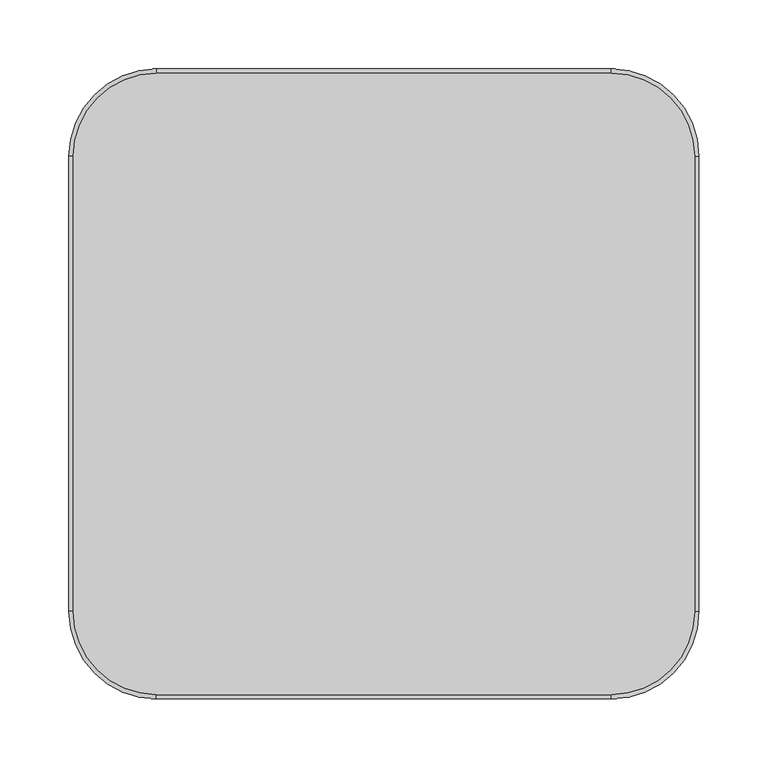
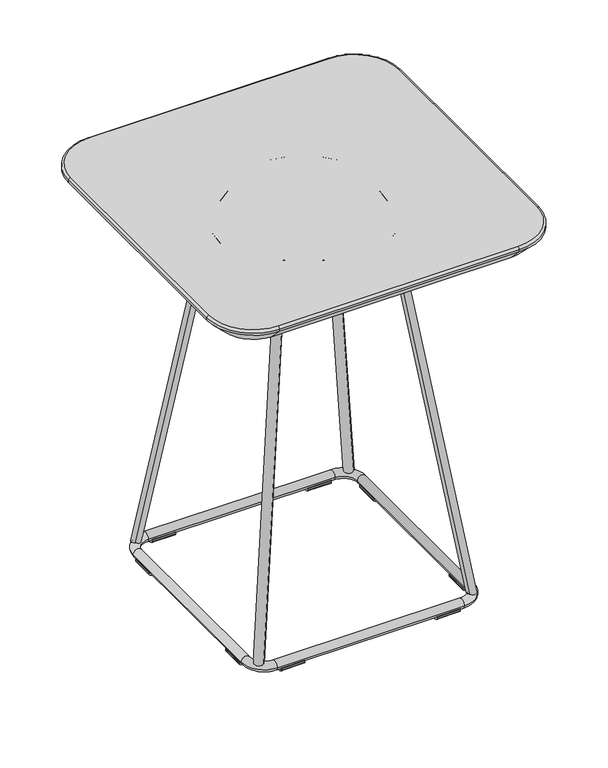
"""IFC4 building model written with IfcOpenShell, lengths in millimetres: furniture geometry, Stance_HC-Tully-Square_Table : TUTF181822-T."""

from ifc_helpers import new_model, si_unit, point, frame, frame_2d, origin, place, context, project, spatial, polyline, circle_curve, ellipse_curve, trimmed, segment, composite_curve, outline, extrude, source, transform, mapped, element, save
from ifc_brep_helpers import plane_surface, cylinder_surface, revolved_surface, extruded_surface, advanced_brep


def furniture_1bf04262(model_context):
    return source(origin(), model_context, "Body", "SolidModel", [
        advanced_brep(
        [(165.1, 225.425, 558.8), (-165.1, 225.425, 558.8), (-225.425, 165.1, 558.8), (-225.425, -165.1, 558.8), (-165.1, -225.425, 558.8), (165.1, -225.425, 558.8), (225.425, -165.1, 558.8), (225.425, 165.1, 558.8), (165.1, 209.55, 533.4), (209.55, 165.1, 533.4), (209.55, -165.1, 533.4), (165.1, -209.55, 533.4), (-165.1, -209.55, 533.4), (-209.55, -165.1, 533.4), (-209.55, 165.1, 533.4), (-165.1, 209.55, 533.4), (228.6, 165.1, 552.45), (165.1, 228.6, 552.45), (165.1, 228.6, 555.625), (228.6, 165.1, 555.625), (228.6, -165.1, 555.625), (228.6, -165.1, 552.45), (165.1, -228.6, 555.625), (165.1, -228.6, 552.45), (-165.1, -228.6, 555.625), (-165.1, -228.6, 552.45), (-228.6, -165.1, 555.625), (-228.6, -165.1, 552.45), (-228.6, 165.1, 555.625), (-228.6, 165.1, 552.45), (-165.1, 228.6, 555.625), (-165.1, 228.6, 552.45)],
        [
            (0, 1),
            (1, 2, circle_curve(frame((-165.1, 165.1, 558.8), z_axis=(0.0, 0.0, 1.0), x_axis=(-1.0, 0.0, 0.0)), 60.325)),
            (2, 3),
            (3, 4, circle_curve(frame((-165.1, -165.1, 558.8), z_axis=(0.0, 0.0, 1.0), x_axis=(0.0, -1.0, 0.0)), 60.325)),
            (4, 5),
            (5, 6, circle_curve(frame((165.1, -165.1, 558.8), z_axis=(0.0, 0.0, 1.0), x_axis=(1.0, 0.0, 0.0)), 60.325)),
            (6, 7),
            (7, 0, circle_curve(frame((165.1, 165.1, 558.8), z_axis=(0.0, 0.0, 1.0), x_axis=(0.0, 1.0, 0.0)), 60.325)),
            (8, 9, circle_curve(frame((165.1, 165.1, 533.4), z_axis=(0.0, 0.0, -1.0), x_axis=(0.0, 1.0, 0.0)), 44.45)),
            (9, 10),
            (10, 11, circle_curve(frame((165.1, -165.1, 533.4), z_axis=(0.0, 0.0, -1.0), x_axis=(1.0, 0.0, 0.0)), 44.45)),
            (11, 12),
            (12, 13, circle_curve(frame((-165.1, -165.1, 533.4), z_axis=(0.0, 0.0, -1.0), x_axis=(0.0, -1.0, 0.0)), 44.45)),
            (13, 14),
            (14, 15, circle_curve(frame((-165.1, 165.1, 533.4), z_axis=(0.0, 0.0, -1.0), x_axis=(-1.0, 0.0, 0.0)), 44.45)),
            (15, 8),
            (16, 17, circle_curve(frame((165.1, 165.1, 552.45), z_axis=(0.0, 0.0, 1.0), x_axis=(0.0, 1.0, 0.0)), 63.5)),
            (17, 18),
            (18, 19, circle_curve(frame((165.1, 165.1, 555.625), z_axis=(0.0, 0.0, -1.0), x_axis=(0.0, 1.0, 0.0)), 63.5)),
            (19, 16),
            (16, 9),
            (8, 17),
            (19, 20),
            (20, 21),
            (21, 16),
            (21, 10),
            (20, 22, circle_curve(frame((165.1, -165.1, 555.625), z_axis=(0.0, 0.0, -1.0), x_axis=(1.0, 0.0, 0.0)), 63.5)),
            (22, 23),
            (23, 21, circle_curve(frame((165.1, -165.1, 552.45), z_axis=(0.0, 0.0, 1.0), x_axis=(1.0, 0.0, 0.0)), 63.5)),
            (23, 11),
            (22, 24),
            (24, 25),
            (25, 23),
            (25, 12),
            (24, 26, circle_curve(frame((-165.1, -165.1, 555.625), z_axis=(0.0, 0.0, -1.0), x_axis=(0.0, -1.0, 0.0)), 63.5)),
            (26, 27),
            (27, 25, circle_curve(frame((-165.1, -165.1, 552.45), z_axis=(0.0, 0.0, 1.0), x_axis=(0.0, -1.0, 0.0)), 63.5)),
            (27, 13),
            (26, 28),
            (28, 29),
            (29, 27),
            (29, 14),
            (28, 30, circle_curve(frame((-165.1, 165.1, 555.625), z_axis=(0.0, 0.0, -1.0), x_axis=(-1.0, 0.0, 0.0)), 63.5)),
            (30, 31),
            (31, 29, circle_curve(frame((-165.1, 165.1, 552.45), z_axis=(0.0, 0.0, 1.0), x_axis=(-1.0, 0.0, 0.0)), 63.5)),
            (31, 15),
            (17, 31),
            (30, 18),
            (18, 0, circle_curve(frame((165.1, 225.425, 555.625), z_axis=(1.0, 0.0, 0.0), x_axis=(0.0, 1.0, 0.0)), 3.175)),
            (7, 19, circle_curve(frame((225.425, 165.1, 555.625), z_axis=(0.0, 1.0, 0.0), x_axis=(1.0, 0.0, 0.0)), 3.175)),
            (6, 20, circle_curve(frame((225.425, -165.1, 555.625), z_axis=(0.0, 1.0, 0.0), x_axis=(1.0, 0.0, 0.0)), 3.175)),
            (5, 22, circle_curve(frame((165.1, -225.425, 555.625), z_axis=(1.0, 0.0, 0.0), x_axis=(0.0, -1.0, 0.0)), 3.175)),
            (4, 24, circle_curve(frame((-165.1, -225.425, 555.625), z_axis=(1.0, 0.0, 0.0), x_axis=(0.0, -1.0, 0.0)), 3.175)),
            (3, 26, circle_curve(frame((-225.425, -165.1, 555.625), z_axis=(0.0, -1.0, 0.0), x_axis=(-1.0, 0.0, 0.0)), 3.175)),
            (2, 28, circle_curve(frame((-225.425, 165.1, 555.625), z_axis=(0.0, -1.0, 0.0), x_axis=(-1.0, 0.0, 0.0)), 3.175)),
            (1, 30, circle_curve(frame((-165.1, 225.425, 555.625), z_axis=(-1.0, 0.0, 0.0), x_axis=(0.0, 1.0, 0.0)), 3.175)),
        ],
        [
            plane_surface(frame((-121.4453784, 165.1, 558.8), z_axis=(0.0, 0.0, 1.0), x_axis=(0.0, 1.0, 0.0))),
            plane_surface(frame((-121.4453784, 165.1, 533.4), z_axis=(0.0, 0.0, -1.0), x_axis=(0.0, -1.0, 0.0))),
            cylinder_surface(frame((165.1, 165.1, 559.0862561), z_axis=(0.0, 0.0, -1.0), x_axis=(0.0, 1.0, 0.0)), 63.5),
            revolved_surface(polyline([(165.1, 228.6, 552.45), (165.1, 209.55, 533.4)]), (165.1, 165.1, 559.0862561), (0.0, 0.0, -1.0)),
            plane_surface(frame((228.6, 165.1, 555.625), z_axis=(1.0, 0.0, 0.0), x_axis=(0.0, -1.0, 0.0))),
            plane_surface(frame((228.6, 165.1, 552.45), z_axis=(0.7071067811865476, 0.0, -0.7071067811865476), x_axis=(0.0, -1.0, 0.0))),
            cylinder_surface(frame((165.1, -165.1, 559.0862561), z_axis=(0.0, 0.0, -1.0), x_axis=(1.0, 0.0, 0.0)), 63.5),
            revolved_surface(polyline([(228.6, -165.1, 552.45), (209.55, -165.1, 533.4)]), (165.1, -165.1, 559.0862561), (0.0, 0.0, -1.0)),
            plane_surface(frame((165.1, -228.6, 555.625), z_axis=(0.0, -1.0, 0.0), x_axis=(-1.0, 0.0, 0.0))),
            plane_surface(frame((165.1, -228.6, 552.45), z_axis=(0.0, -0.7071067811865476, -0.7071067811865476), x_axis=(-1.0, 0.0, 0.0))),
            cylinder_surface(frame((-165.1, -165.1, 559.0862561), z_axis=(0.0, 0.0, -1.0), x_axis=(0.0, -1.0, 0.0)), 63.5),
            revolved_surface(polyline([(-165.1, -228.6, 552.45), (-165.1, -209.55, 533.4)]), (-165.1, -165.1, 559.0862561), (0.0, 0.0, -1.0)),
            plane_surface(frame((-228.6, -165.1, 555.625), z_axis=(-1.0, 0.0, 0.0), x_axis=(0.0, 1.0, 0.0))),
            plane_surface(frame((-228.6, -165.1, 552.45), z_axis=(-0.7071067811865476, 0.0, -0.7071067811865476), x_axis=(0.0, 1.0, 0.0))),
            cylinder_surface(frame((-165.1, 165.1, 559.0862561), z_axis=(0.0, 0.0, -1.0), x_axis=(-1.0, 0.0, 0.0)), 63.5),
            revolved_surface(polyline([(-228.6, 165.1, 552.45), (-209.55, 165.1, 533.4)]), (-165.1, 165.1, 559.0862561), (0.0, 0.0, -1.0)),
            plane_surface(frame((-165.1, 228.6, 555.625), z_axis=(0.0, 1.0, 0.0), x_axis=(1.0, 0.0, 0.0))),
            plane_surface(frame((-165.1, 228.6, 552.45), z_axis=(0.0, 0.7071067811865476, -0.7071067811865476), x_axis=(1.0, 0.0, 0.0))),
            revolved_surface(trimmed(ellipse_curve(frame((165.1, 225.425, 555.625), z_axis=(-1.0, 0.0, 0.0), x_axis=(0.0, 1.0, 0.0)), 3.175, 3.175), [point((165.1, 225.425, 558.8))], [point((165.1, 228.6, 555.625))], True, "CARTESIAN"), (165.1, 165.1, 559.0862561), (0.0, 0.0, -1.0)),
            cylinder_surface(frame((225.425, 165.1, 555.625), z_axis=(0.0, 1.0, 0.0), x_axis=(1.0, 0.0, 0.0)), 3.175),
            revolved_surface(trimmed(ellipse_curve(frame((225.425, -165.1, 555.625), z_axis=(0.0, 1.0, 0.0), x_axis=(1.0, 0.0, 0.0)), 3.175, 3.175), [point((225.425, -165.1, 558.8))], [point((228.6, -165.1, 555.625))], True, "CARTESIAN"), (165.1, -165.1, 559.0862561), (0.0, 0.0, -1.0)),
            cylinder_surface(frame((165.1, -225.425, 555.625), z_axis=(1.0, 0.0, 0.0), x_axis=(0.0, -1.0, 0.0)), 3.175),
            revolved_surface(trimmed(ellipse_curve(frame((-165.1, -225.425, 555.625), z_axis=(1.0, 0.0, 0.0), x_axis=(0.0, -1.0, 0.0)), 3.175, 3.175), [point((-165.1, -225.425, 558.8))], [point((-165.1, -228.6, 555.625))], True, "CARTESIAN"), (-165.1, -165.1, 559.0862561), (0.0, 0.0, -1.0)),
            cylinder_surface(frame((-225.425, -165.1, 555.625), z_axis=(0.0, -1.0, 0.0), x_axis=(-1.0, 0.0, 0.0)), 3.175),
            revolved_surface(trimmed(ellipse_curve(frame((-225.425, 165.1, 555.625), z_axis=(0.0, -1.0, 0.0), x_axis=(-1.0, 0.0, 0.0)), 3.175, 3.175), [point((-225.425, 165.1, 558.8))], [point((-228.6, 165.1, 555.625))], True, "CARTESIAN"), (-165.1, 165.1, 559.0862561), (0.0, 0.0, -1.0)),
            cylinder_surface(frame((-165.1, 225.425, 555.625), z_axis=(-1.0, 0.0, 0.0), x_axis=(0.0, 1.0, 0.0)), 3.175),
        ],
        [
            (0, [[1, 2, 3, 4, 5, 6, 7, 8]]),
            (1, [[9, 10, 11, 12, 13, 14, 15, 16]]),
            (2, [[17, 18, 19, 20]]),
            (3, [[-17, 21, -9, 22]]),
            (4, [[-20, 23, 24, 25]]),
            (5, [[-21, -25, 26, -10]]),
            (6, [[-24, 27, 28, 29]]),
            (7, [[-26, -29, 30, -11]]),
            (8, [[-28, 31, 32, 33]]),
            (9, [[-30, -33, 34, -12]]),
            (10, [[-32, 35, 36, 37]]),
            (11, [[-34, -37, 38, -13]]),
            (12, [[-36, 39, 40, 41]]),
            (13, [[-38, -41, 42, -14]]),
            (14, [[-40, 43, 44, 45]]),
            (15, [[-42, -45, 46, -15]]),
            (16, [[-18, 47, -44, 48]]),
            (17, [[-22, -16, -46, -47]]),
            (18, [[-19, 49, -8, 50]]),
            (19, [[-23, -50, -7, 51]]),
            (20, [[-27, -51, -6, 52]]),
            (21, [[-31, -52, -5, 53]]),
            (22, [[-35, -53, -4, 54]]),
            (23, [[-39, -54, -3, 55]]),
            (24, [[-43, -55, -2, 56]]),
            (25, [[-1, -49, -48, -56]]),
        ],
    ),
        extrude(outline(composite_curve([segment(trimmed(circle_curve(frame_2d((-148.4350817, 5.3337234)), 0.3897203), [point((-148.7664819, 5.5387985))], [point((-148.0454207, 5.3269218))], False, "CARTESIAN"), True, "CONTINUOUS"), segment(polyline([(-148.0454207, 5.3269218), (-148.0841502, 3.1081125)]), True, "CONTINUOUS"), segment(trimmed(circle_curve(frame_2d((-149.6824444, 3.1360109)), 1.5985377), [point((-148.0841502, 3.1081125))], [point((-148.7010134, 1.8742201))], False, "CARTESIAN"), True, "CONTINUOUS"), segment(trimmed(circle_curve(frame_2d((-154.1650784, 8.8991729)), 8.8997735), [point((-148.7010134, 1.8742201))], [point((-159.6514035, 1.891591))], False, "CARTESIAN"), True, "CONTINUOUS"), segment(trimmed(circle_curve(frame_2d((-158.6952511, 3.1128668)), 1.5510454), [point((-159.6514035, 1.891591))], [point((-160.2460603, 3.0857973))], False, "CARTESIAN"), True, "CONTINUOUS"), segment(polyline([(-160.2460603, 3.0857973), (-160.2853602, 5.3372874)]), True, "CONTINUOUS"), segment(trimmed(circle_curve(frame_2d((-159.9029827, 5.3439618)), 0.3824358), [point((-160.2853602, 5.3372874))], [point((-159.5775522, 5.5448401))], False, "CARTESIAN"), True, "CONTINUOUS"), segment(trimmed(circle_curve(frame_2d((-154.1701501, 8.882664)), 6.3546098), [point((-159.5775522, 5.5448401))], [point((-148.7664819, 5.5387985))], True, "CARTESIAN"), True, "CONTINUOUS")], self_intersect=False)), frame((-123.2212496, 0.0, 0.0), z_axis=(1.0, 0.0, 0.0), x_axis=(0.0, 1.0, 0.0)), (0.0, 0.0, 1.0), 32.2202589),
        extrude(outline(composite_curve([segment(trimmed(circle_curve(frame_2d((-148.4350817, 5.3337234)), 0.3897203), [point((-148.7664819, 5.5387985))], [point((-148.0454207, 5.3269218))], False, "CARTESIAN"), True, "CONTINUOUS"), segment(polyline([(-148.0454207, 5.3269218), (-148.0841502, 3.1081125)]), True, "CONTINUOUS"), segment(trimmed(circle_curve(frame_2d((-149.6824444, 3.1360109)), 1.5985377), [point((-148.0841502, 3.1081125))], [point((-148.7010134, 1.8742201))], False, "CARTESIAN"), True, "CONTINUOUS"), segment(trimmed(circle_curve(frame_2d((-154.1650784, 8.8991729)), 8.8997735), [point((-148.7010134, 1.8742201))], [point((-159.6514035, 1.891591))], False, "CARTESIAN"), True, "CONTINUOUS"), segment(trimmed(circle_curve(frame_2d((-158.6952511, 3.1128668)), 1.5510454), [point((-159.6514035, 1.891591))], [point((-160.2460603, 3.0857973))], False, "CARTESIAN"), True, "CONTINUOUS"), segment(polyline([(-160.2460603, 3.0857973), (-160.2853602, 5.3372874)]), True, "CONTINUOUS"), segment(trimmed(circle_curve(frame_2d((-159.9029827, 5.3439618)), 0.3824358), [point((-160.2853602, 5.3372874))], [point((-159.5775522, 5.5448401))], False, "CARTESIAN"), True, "CONTINUOUS"), segment(trimmed(circle_curve(frame_2d((-154.1701501, 8.882664)), 6.3546098), [point((-159.5775522, 5.5448401))], [point((-148.7664819, 5.5387985))], True, "CARTESIAN"), True, "CONTINUOUS")], self_intersect=False)), frame((91.0531504, 0.0, 0.0), z_axis=(1.0, 0.0, 0.0), x_axis=(0.0, 1.0, 0.0)), (0.0, 0.0, 1.0), 32.2202589),
        extrude(outline(composite_curve([segment(trimmed(circle_curve(frame_2d((154.1701501, 8.882664)), 6.3546098), [point((148.7664819, 5.5387985))], [point((159.5775522, 5.5448401))], True, "CARTESIAN"), True, "CONTINUOUS"), segment(trimmed(circle_curve(frame_2d((159.9029827, 5.3439618)), 0.3824358), [point((159.5775522, 5.5448401))], [point((160.2853602, 5.3372874))], False, "CARTESIAN"), True, "CONTINUOUS"), segment(polyline([(160.2853602, 5.3372874), (160.2460603, 3.0857973)]), True, "CONTINUOUS"), segment(trimmed(circle_curve(frame_2d((158.6952511, 3.1128668)), 1.5510454), [point((160.2460603, 3.0857973))], [point((159.6514035, 1.891591))], False, "CARTESIAN"), True, "CONTINUOUS"), segment(trimmed(circle_curve(frame_2d((154.1650784, 8.8991729)), 8.8997735), [point((159.6514035, 1.891591))], [point((148.7010134, 1.8742201))], False, "CARTESIAN"), True, "CONTINUOUS"), segment(trimmed(circle_curve(frame_2d((149.6824444, 3.1360109)), 1.5985377), [point((148.7010134, 1.8742201))], [point((148.0841502, 3.1081125))], False, "CARTESIAN"), True, "CONTINUOUS"), segment(polyline([(148.0841502, 3.1081125), (148.0454207, 5.3269218)]), True, "CONTINUOUS"), segment(trimmed(circle_curve(frame_2d((148.4350817, 5.3337234)), 0.3897203), [point((148.0454207, 5.3269218))], [point((148.7664819, 5.5387985))], False, "CARTESIAN"), True, "CONTINUOUS")], self_intersect=False)), frame((-123.2212496, 0.0, 0.0), z_axis=(1.0, 0.0, 0.0), x_axis=(0.0, 1.0, 0.0)), (0.0, 0.0, 1.0), 32.2202589),
        extrude(outline(composite_curve([segment(trimmed(circle_curve(frame_2d((154.1701501, 8.882664)), 6.3546098), [point((148.7664819, 5.5387985))], [point((159.5775522, 5.5448401))], True, "CARTESIAN"), True, "CONTINUOUS"), segment(trimmed(circle_curve(frame_2d((159.9029827, 5.3439618)), 0.3824358), [point((159.5775522, 5.5448401))], [point((160.2853602, 5.3372874))], False, "CARTESIAN"), True, "CONTINUOUS"), segment(polyline([(160.2853602, 5.3372874), (160.2460603, 3.0857973)]), True, "CONTINUOUS"), segment(trimmed(circle_curve(frame_2d((158.6952511, 3.1128668)), 1.5510454), [point((160.2460603, 3.0857973))], [point((159.6514035, 1.891591))], False, "CARTESIAN"), True, "CONTINUOUS"), segment(trimmed(circle_curve(frame_2d((154.1650784, 8.8991729)), 8.8997735), [point((159.6514035, 1.891591))], [point((148.7010134, 1.8742201))], False, "CARTESIAN"), True, "CONTINUOUS"), segment(trimmed(circle_curve(frame_2d((149.6824444, 3.1360109)), 1.5985377), [point((148.7010134, 1.8742201))], [point((148.0841502, 3.1081125))], False, "CARTESIAN"), True, "CONTINUOUS"), segment(polyline([(148.0841502, 3.1081125), (148.0454207, 5.3269218)]), True, "CONTINUOUS"), segment(trimmed(circle_curve(frame_2d((148.4350817, 5.3337234)), 0.3897203), [point((148.0454207, 5.3269218))], [point((148.7664819, 5.5387985))], False, "CARTESIAN"), True, "CONTINUOUS")], self_intersect=False)), frame((91.0531504, 0.0, 0.0), z_axis=(1.0, 0.0, 0.0), x_axis=(0.0, 1.0, 0.0)), (0.0, 0.0, 1.0), 32.2202589),
        advanced_brep(
        [(81.5399756, 72.5694431, 523.8961578), (72.5597195, 81.5496992, 523.8961578), (151.0077383, 142.0372058, 13.6617424), (142.0274822, 151.0174619, 13.6617424)],
        [
            (0, 1, ellipse_curve(frame((77.0498475, 77.0595711, 523.8961578), z_axis=(0.0, 0.0, 1.0000000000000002), x_axis=(-0.7071067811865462, 0.7071067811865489, 0.0)), 6.35, 6.1981026)),
            (1, 0, ellipse_curve(frame((77.0498475, 77.0595711, 523.8961578), z_axis=(0.0, 0.0, 1.0000000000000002), x_axis=(-0.7071067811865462, 0.7071067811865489, 0.0)), 6.35, 6.1981026)),
            (2, 3, ellipse_curve(frame((146.5176102, 146.5273338, 13.6617424), z_axis=(0.0, 0.0, -1.0000000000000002), x_axis=(-0.7071067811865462, 0.7071067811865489, 0.0)), 6.35, 6.1981026)),
            (3, 2, ellipse_curve(frame((146.5176102, 146.5273338, 13.6617424), z_axis=(0.0, 0.0, -1.0000000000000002), x_axis=(-0.7071067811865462, 0.7071067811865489, 0.0)), 6.35, 6.1981026)),
            (3, 1),
            (0, 2),
        ],
        [
            plane_surface(frame((77.0498475, 77.0595711, 523.8961578), z_axis=(0.0, 0.0, 1.0), x_axis=(0.7071067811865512, 0.7071067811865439, 0.0))),
            plane_surface(frame((146.5176102, 146.5273338, 13.6617424), z_axis=(0.0, 0.0, -1.0), x_axis=(0.7071067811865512, 0.7071067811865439, 0.0))),
            extruded_surface(trimmed(ellipse_curve(frame((146.5176102, 146.5273338, 13.6617424), z_axis=(0.0, 0.0, 1.0000000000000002), x_axis=(-0.7071067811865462, 0.7071067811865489, 0.0)), 6.35, 6.1981026), [point((151.0077383, 142.0372058, 13.6617424))], [point((142.0274822, 151.0174619, 13.6617424))], True, "CARTESIAN"), (-69.46776270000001, -69.46776270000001, 510.2344154), 519.6062920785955),
            extruded_surface(trimmed(ellipse_curve(frame((146.5176102, 146.5273338, 13.6617424), z_axis=(0.0, 0.0, 1.0000000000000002), x_axis=(-0.7071067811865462, 0.7071067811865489, 0.0)), 6.35, 6.1981026), [point((142.0274822, 151.0174619, 13.6617424))], [point((151.0077383, 142.0372058, 13.6617424))], True, "CARTESIAN"), (-69.46776270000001, -69.46776270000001, 510.2344154), 519.6062920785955),
        ],
        [
            (0, [[1, 2]]),
            (1, [[3, 4]]),
            (2, [[-4, 5, -1, 6]]),
            (3, [[-3, -6, -2, -5]]),
        ],
    ),
        advanced_brep(
        [(-81.5399756, 72.5694431, 523.8961578), (-72.5597195, 81.5496992, 523.8961578), (-151.0077383, 142.0372058, 13.6617424), (-142.0274822, 151.0174619, 13.6617424)],
        [
            (0, 1, ellipse_curve(frame((-77.0498475, 77.0595711, 523.8961578), z_axis=(0.0, 0.0, 1.0000000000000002), x_axis=(0.7071067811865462, 0.7071067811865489, 0.0)), 6.35, 6.1981026)),
            (1, 0, ellipse_curve(frame((-77.0498475, 77.0595711, 523.8961578), z_axis=(0.0, 0.0, 1.0000000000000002), x_axis=(0.7071067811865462, 0.7071067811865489, 0.0)), 6.35, 6.1981026)),
            (2, 3, ellipse_curve(frame((-146.5176102, 146.5273338, 13.6617424), z_axis=(0.0, 0.0, -1.0000000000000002), x_axis=(0.7071067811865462, 0.7071067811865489, 0.0)), 6.35, 6.1981026)),
            (3, 2, ellipse_curve(frame((-146.5176102, 146.5273338, 13.6617424), z_axis=(0.0, 0.0, -1.0000000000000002), x_axis=(0.7071067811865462, 0.7071067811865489, 0.0)), 6.35, 6.1981026)),
            (2, 0),
            (1, 3),
        ],
        [
            plane_surface(frame((-77.0498475, 77.0595711, 523.8961578), z_axis=(0.0, 0.0, 1.0), x_axis=(0.7071067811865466, -0.7071067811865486, 0.0))),
            plane_surface(frame((-146.5176102, 146.5273338, 13.6617424), z_axis=(0.0, 0.0, -1.0), x_axis=(0.7071067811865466, -0.7071067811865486, 0.0))),
            extruded_surface(trimmed(ellipse_curve(frame((-146.5176102, 146.5273338, 13.6617424), z_axis=(0.0, 0.0, 1.0000000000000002), x_axis=(0.7071067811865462, 0.7071067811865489, 0.0)), 6.35, 6.1981026), [point((-142.0274822, 151.0174619, 13.6617424))], [point((-151.0077383, 142.0372058, 13.6617424))], True, "CARTESIAN"), (69.46776270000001, -69.46776270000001, 510.2344154), 519.6062920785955),
            extruded_surface(trimmed(ellipse_curve(frame((-146.5176102, 146.5273338, 13.6617424), z_axis=(0.0, 0.0, 1.0000000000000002), x_axis=(0.7071067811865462, 0.7071067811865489, 0.0)), 6.35, 6.1981026), [point((-151.0077383, 142.0372058, 13.6617424))], [point((-142.0274822, 151.0174619, 13.6617424))], True, "CARTESIAN"), (69.46776270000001, -69.46776270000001, 510.2344154), 519.6062920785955),
        ],
        [
            (0, [[1, 2]]),
            (1, [[3, 4]]),
            (2, [[-3, 5, -2, 6]]),
            (3, [[-4, -6, -1, -5]]),
        ],
    ),
        advanced_brep(
        [(81.5399756, -72.5694431, 523.8961578), (72.5597195, -81.5496992, 523.8961578), (151.0077383, -142.0372058, 13.6617424), (142.0274822, -151.0174619, 13.6617424)],
        [
            (0, 1, ellipse_curve(frame((77.0498475, -77.0595711, 523.8961578), z_axis=(0.0, 0.0, 1.0000000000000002), x_axis=(-0.7071067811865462, -0.7071067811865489, 0.0)), 6.35, 6.1981026)),
            (1, 0, ellipse_curve(frame((77.0498475, -77.0595711, 523.8961578), z_axis=(0.0, 0.0, 1.0000000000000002), x_axis=(-0.7071067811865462, -0.7071067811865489, 0.0)), 6.35, 6.1981026)),
            (2, 3, ellipse_curve(frame((146.5176102, -146.5273338, 13.6617424), z_axis=(0.0, 0.0, -1.0000000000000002), x_axis=(-0.7071067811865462, -0.7071067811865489, 0.0)), 6.35, 6.1981026)),
            (3, 2, ellipse_curve(frame((146.5176102, -146.5273338, 13.6617424), z_axis=(0.0, 0.0, -1.0000000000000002), x_axis=(-0.7071067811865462, -0.7071067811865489, 0.0)), 6.35, 6.1981026)),
            (2, 0),
            (1, 3),
        ],
        [
            plane_surface(frame((77.0498475, -77.0595711, 523.8961578), z_axis=(0.0, 0.0, 1.0), x_axis=(-0.7071067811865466, 0.7071067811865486, 0.0))),
            plane_surface(frame((146.5176102, -146.5273338, 13.6617424), z_axis=(0.0, 0.0, -1.0), x_axis=(-0.7071067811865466, 0.7071067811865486, 0.0))),
            extruded_surface(trimmed(ellipse_curve(frame((146.5176102, -146.5273338, 13.6617424), z_axis=(0.0, 0.0, 1.0000000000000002), x_axis=(-0.7071067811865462, -0.7071067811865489, 0.0)), 6.35, 6.1981026), [point((142.0274822, -151.0174619, 13.6617424))], [point((151.0077383, -142.0372058, 13.6617424))], True, "CARTESIAN"), (-69.46776270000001, 69.46776270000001, 510.2344154), 519.6062920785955),
            extruded_surface(trimmed(ellipse_curve(frame((146.5176102, -146.5273338, 13.6617424), z_axis=(0.0, 0.0, 1.0000000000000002), x_axis=(-0.7071067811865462, -0.7071067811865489, 0.0)), 6.35, 6.1981026), [point((151.0077383, -142.0372058, 13.6617424))], [point((142.0274822, -151.0174619, 13.6617424))], True, "CARTESIAN"), (-69.46776270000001, 69.46776270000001, 510.2344154), 519.6062920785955),
        ],
        [
            (0, [[1, 2]]),
            (1, [[3, 4]]),
            (2, [[-3, 5, -2, 6]]),
            (3, [[-4, -6, -1, -5]]),
        ],
    ),
        advanced_brep(
        [(-81.5399756, -72.5694431, 523.8961578), (-72.5597195, -81.5496992, 523.8961578), (-151.0077383, -142.0372058, 13.6617424), (-142.0274822, -151.0174619, 13.6617424)],
        [
            (0, 1, ellipse_curve(frame((-77.0498475, -77.0595711, 523.8961578), z_axis=(0.0, 0.0, 1.0000000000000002), x_axis=(0.7071067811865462, -0.7071067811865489, 0.0)), 6.35, 6.1981026)),
            (1, 0, ellipse_curve(frame((-77.0498475, -77.0595711, 523.8961578), z_axis=(0.0, 0.0, 1.0000000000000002), x_axis=(0.7071067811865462, -0.7071067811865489, 0.0)), 6.35, 6.1981026)),
            (2, 3, ellipse_curve(frame((-146.5176102, -146.5273338, 13.6617424), z_axis=(0.0, 0.0, -1.0000000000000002), x_axis=(0.7071067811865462, -0.7071067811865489, 0.0)), 6.35, 6.1981026)),
            (3, 2, ellipse_curve(frame((-146.5176102, -146.5273338, 13.6617424), z_axis=(0.0, 0.0, -1.0000000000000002), x_axis=(0.7071067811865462, -0.7071067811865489, 0.0)), 6.35, 6.1981026)),
            (3, 1),
            (0, 2),
        ],
        [
            plane_surface(frame((-77.0498475, -77.0595711, 523.8961578), z_axis=(0.0, 0.0, 1.0), x_axis=(-0.7071067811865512, -0.7071067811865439, 0.0))),
            plane_surface(frame((-146.5176102, -146.5273338, 13.6617424), z_axis=(0.0, 0.0, -1.0), x_axis=(-0.7071067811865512, -0.7071067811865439, 0.0))),
            extruded_surface(trimmed(ellipse_curve(frame((-146.5176102, -146.5273338, 13.6617424), z_axis=(0.0, 0.0, 1.0000000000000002), x_axis=(0.7071067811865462, -0.7071067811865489, 0.0)), 6.35, 6.1981026), [point((-151.0077383, -142.0372058, 13.6617424))], [point((-142.0274822, -151.0174619, 13.6617424))], True, "CARTESIAN"), (69.46776270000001, 69.46776270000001, 510.2344154), 519.6062920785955),
            extruded_surface(trimmed(ellipse_curve(frame((-146.5176102, -146.5273338, 13.6617424), z_axis=(0.0, 0.0, 1.0000000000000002), x_axis=(0.7071067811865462, -0.7071067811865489, 0.0)), 6.35, 6.1981026), [point((-142.0274822, -151.0174619, 13.6617424))], [point((-151.0077383, -142.0372058, 13.6617424))], True, "CARTESIAN"), (69.46776270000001, 69.46776270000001, 510.2344154), 519.6062920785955),
        ],
        [
            (0, [[1, 2]]),
            (1, [[3, 4]]),
            (2, [[-4, 5, -1, 6]]),
            (3, [[-3, -6, -2, -5]]),
        ],
    ),
        extrude(outline(composite_curve([segment(trimmed(circle_curve(frame_2d((-82.55, 0.0)), 9.525), [point((-82.55, 9.525))], [point((-82.55, -9.525))], False, "CARTESIAN"), True, "CONTINUOUS"), segment(polyline([(-82.55, -9.525), (-104.775, -9.525), (-104.775, 9.525), (-82.55, 9.525)]), True, "CONTINUOUS")], self_intersect=False)), frame((0.0, 0.0, 530.225), z_axis=(0.0, 0.0, 1.0), x_axis=(1.0, 0.0, 0.0)), (0.0, 0.0, 1.0), 3.175),
        extrude(outline(composite_curve([segment(polyline([(9.525, 104.775), (9.525, 82.55)]), True, "CONTINUOUS"), segment(trimmed(circle_curve(frame_2d((0.0, 82.55)), 9.525), [point((9.525, 82.55))], [point((-9.525, 82.55))], False, "CARTESIAN"), True, "CONTINUOUS"), segment(polyline([(-9.525, 82.55), (-9.525, 104.775), (9.525, 104.775)]), True, "CONTINUOUS")], self_intersect=False)), frame((0.0, 0.0, 530.225), z_axis=(0.0, 0.0, 1.0), x_axis=(1.0, 0.0, 0.0)), (0.0, 0.0, 1.0), 3.175),
        extrude(outline(composite_curve([segment(polyline([(104.775, 9.525), (104.775, -9.525), (82.55, -9.525)]), True, "CONTINUOUS"), segment(trimmed(circle_curve(frame_2d((82.55, 0.0)), 9.525), [point((82.55, -9.525))], [point((82.55, 9.525))], False, "CARTESIAN"), True, "CONTINUOUS"), segment(polyline([(82.55, 9.525), (104.775, 9.525)]), True, "CONTINUOUS")], self_intersect=False)), frame((0.0, 0.0, 530.225), z_axis=(0.0, 0.0, 1.0), x_axis=(1.0, 0.0, 0.0)), (0.0, 0.0, 1.0), 3.175),
        extrude(outline(composite_curve([segment(polyline([(9.525, -104.775), (-9.525, -104.775), (-9.525, -82.55)]), True, "CONTINUOUS"), segment(trimmed(circle_curve(frame_2d((0.0, -82.55)), 9.525), [point((-9.525, -82.55))], [point((9.525, -82.55))], False, "CARTESIAN"), True, "CONTINUOUS"), segment(polyline([(9.525, -82.55), (9.525, -104.775)]), True, "CONTINUOUS")], self_intersect=False)), frame((0.0, 0.0, 530.225), z_axis=(0.0, 0.0, 1.0), x_axis=(1.0, 0.0, 0.0)), (0.0, 0.0, 1.0), 3.175),
        advanced_brep(
        [(103.1973977, 0.0, 527.05), (-103.1973977, 0.0, 527.05), (-115.8973977, 0.0, 527.05), (115.8973977, 0.0, 527.05)],
        [
            (0, 1, circle_curve(frame((0.0, 0.0, 527.05), z_axis=(0.0, 0.0, -1.0), x_axis=(-1.0, 0.0, 0.0)), 103.1973977)),
            (1, 2, circle_curve(frame((-109.5473977, 0.0, 527.05), z_axis=(0.0, -1.0, 0.0), x_axis=(1.0, 0.0, 0.0)), 6.35)),
            (2, 3, circle_curve(frame((0.0, 0.0, 527.05), z_axis=(0.0, 0.0, 1.0), x_axis=(-1.0, 0.0, 0.0)), 115.8973977)),
            (3, 0, circle_curve(frame((109.5473977, 0.0, 527.05), z_axis=(0.0, -1.0, 0.0), x_axis=(-1.0, 0.0, 0.0)), 6.35)),
            (2, 1, circle_curve(frame((-109.5473977, 0.0, 527.05), z_axis=(0.0, -1.0, 0.0), x_axis=(1.0, 0.0, 0.0)), 6.35)),
            (0, 3, circle_curve(frame((109.5473977, 0.0, 527.05), z_axis=(0.0, -1.0, 0.0), x_axis=(-1.0, 0.0, 0.0)), 6.35)),
            (1, 0, circle_curve(frame((0.0, 0.0, 527.05), z_axis=(0.0, 0.0, -1.0), x_axis=(1.0, 0.0, 0.0)), 103.1973977)),
            (3, 2, circle_curve(frame((0.0, 0.0, 527.05), z_axis=(0.0, 0.0, 1.0), x_axis=(1.0, 0.0, 0.0)), 115.8973977)),
        ],
        [
            revolved_surface(trimmed(ellipse_curve(frame((-109.5473977, 0.0, 527.05), z_axis=(0.0, 1.0, 0.0), x_axis=(1.0, 0.0, 0.0)), 6.35, 6.35), [point((-115.8973977, 0.0, 527.05))], [point((-103.1973977, 0.0, 527.05))], True, "CARTESIAN"), (0.0, 0.0, 0.0), (0.0, 0.0, 1.0)),
            revolved_surface(trimmed(ellipse_curve(frame((-109.5473977, 0.0, 527.05), z_axis=(0.0, 1.0, 0.0), x_axis=(1.0, 0.0, 0.0)), 6.35, 6.35), [point((-103.1973977, 0.0, 527.05))], [point((-115.8973977, 0.0, 527.05))], True, "CARTESIAN"), (0.0, 0.0, 0.0), (0.0, 0.0, 1.0)),
            revolved_surface(trimmed(ellipse_curve(frame((109.5473977, 0.0, 527.05), z_axis=(0.0, -1.0, 0.0), x_axis=(-1.0, 0.0, 0.0)), 6.35, 6.35), [point((115.8973977, 0.0, 527.05))], [point((103.1973977, 0.0, 527.05))], True, "CARTESIAN"), (0.0, 0.0, 0.0), (0.0, 0.0, 1.0)),
            revolved_surface(trimmed(ellipse_curve(frame((109.5473977, 0.0, 527.05), z_axis=(0.0, -1.0, 0.0), x_axis=(-1.0, 0.0, 0.0)), 6.35, 6.35), [point((103.1973977, 0.0, 527.05))], [point((115.8973977, 0.0, 527.05))], True, "CARTESIAN"), (0.0, 0.0, 0.0), (0.0, 0.0, 1.0)),
        ],
        [
            (0, [[1, 2, 3, 4]]),
            (1, [[-3, 5, -1, 6]]),
            (2, [[7, -4, 8, -2]]),
            (3, [[-8, -6, -7, -5]]),
        ],
    ),
        extrude(outline(composite_curve([segment(trimmed(circle_curve(frame_2d((5.3337234, 148.4350817)), 0.3897203), [point((5.5387985, 148.7664819))], [point((5.3269218, 148.0454207))], False, "CARTESIAN"), True, "CONTINUOUS"), segment(polyline([(5.3269218, 148.0454207), (3.1081125, 148.0841502)]), True, "CONTINUOUS"), segment(trimmed(circle_curve(frame_2d((3.1360109, 149.6824444)), 1.5985377), [point((3.1081125, 148.0841502))], [point((1.8742201, 148.7010134))], False, "CARTESIAN"), True, "CONTINUOUS"), segment(trimmed(circle_curve(frame_2d((8.8991729, 154.1650784)), 8.8997735), [point((1.8742201, 148.7010134))], [point((1.891591, 159.6514035))], False, "CARTESIAN"), True, "CONTINUOUS"), segment(trimmed(circle_curve(frame_2d((3.1128668, 158.6952511)), 1.5510454), [point((1.891591, 159.6514035))], [point((3.0857973, 160.2460603))], False, "CARTESIAN"), True, "CONTINUOUS"), segment(polyline([(3.0857973, 160.2460603), (5.3372874, 160.2853602)]), True, "CONTINUOUS"), segment(trimmed(circle_curve(frame_2d((5.3439618, 159.9029827)), 0.3824358), [point((5.3372874, 160.2853602))], [point((5.5448401, 159.5775522))], False, "CARTESIAN"), True, "CONTINUOUS"), segment(trimmed(circle_curve(frame_2d((8.882664, 154.1701501)), 6.3546098), [point((5.5448401, 159.5775522))], [point((5.5387985, 148.7664819))], True, "CARTESIAN"), True, "CONTINUOUS")], self_intersect=False)), frame((0.0, -123.2212496, 0.0), z_axis=(0.0, 1.0, 0.0), x_axis=(0.0, 0.0, 1.0)), (0.0, 0.0, 1.0), 32.2202589),
        extrude(outline(composite_curve([segment(trimmed(circle_curve(frame_2d((5.3337234, 148.4350817)), 0.3897203), [point((5.5387985, 148.7664819))], [point((5.3269218, 148.0454207))], False, "CARTESIAN"), True, "CONTINUOUS"), segment(polyline([(5.3269218, 148.0454207), (3.1081125, 148.0841502)]), True, "CONTINUOUS"), segment(trimmed(circle_curve(frame_2d((3.1360109, 149.6824444)), 1.5985377), [point((3.1081125, 148.0841502))], [point((1.8742201, 148.7010134))], False, "CARTESIAN"), True, "CONTINUOUS"), segment(trimmed(circle_curve(frame_2d((8.8991729, 154.1650784)), 8.8997735), [point((1.8742201, 148.7010134))], [point((1.891591, 159.6514035))], False, "CARTESIAN"), True, "CONTINUOUS"), segment(trimmed(circle_curve(frame_2d((3.1128668, 158.6952511)), 1.5510454), [point((1.891591, 159.6514035))], [point((3.0857973, 160.2460603))], False, "CARTESIAN"), True, "CONTINUOUS"), segment(polyline([(3.0857973, 160.2460603), (5.3372874, 160.2853602)]), True, "CONTINUOUS"), segment(trimmed(circle_curve(frame_2d((5.3439618, 159.9029827)), 0.3824358), [point((5.3372874, 160.2853602))], [point((5.5448401, 159.5775522))], False, "CARTESIAN"), True, "CONTINUOUS"), segment(trimmed(circle_curve(frame_2d((8.882664, 154.1701501)), 6.3546098), [point((5.5448401, 159.5775522))], [point((5.5387985, 148.7664819))], True, "CARTESIAN"), True, "CONTINUOUS")], self_intersect=False)), frame((0.0, 91.0531504, 0.0), z_axis=(0.0, 1.0, 0.0), x_axis=(0.0, 0.0, 1.0)), (0.0, 0.0, 1.0), 32.2202589),
        extrude(outline(composite_curve([segment(trimmed(circle_curve(frame_2d((8.882664, -154.1701501)), 6.3546098), [point((5.5387985, -148.7664819))], [point((5.5448401, -159.5775522))], True, "CARTESIAN"), True, "CONTINUOUS"), segment(trimmed(circle_curve(frame_2d((5.3439618, -159.9029827)), 0.3824358), [point((5.5448401, -159.5775522))], [point((5.3372874, -160.2853602))], False, "CARTESIAN"), True, "CONTINUOUS"), segment(polyline([(5.3372874, -160.2853602), (3.0857973, -160.2460603)]), True, "CONTINUOUS"), segment(trimmed(circle_curve(frame_2d((3.1128668, -158.6952511)), 1.5510454), [point((3.0857973, -160.2460603))], [point((1.891591, -159.6514035))], False, "CARTESIAN"), True, "CONTINUOUS"), segment(trimmed(circle_curve(frame_2d((8.8991729, -154.1650784)), 8.8997735), [point((1.891591, -159.6514035))], [point((1.8742201, -148.7010134))], False, "CARTESIAN"), True, "CONTINUOUS"), segment(trimmed(circle_curve(frame_2d((3.1360109, -149.6824444)), 1.5985377), [point((1.8742201, -148.7010134))], [point((3.1081125, -148.0841502))], False, "CARTESIAN"), True, "CONTINUOUS"), segment(polyline([(3.1081125, -148.0841502), (5.3269218, -148.0454207)]), True, "CONTINUOUS"), segment(trimmed(circle_curve(frame_2d((5.3337234, -148.4350817)), 0.3897203), [point((5.3269218, -148.0454207))], [point((5.5387985, -148.7664819))], False, "CARTESIAN"), True, "CONTINUOUS")], self_intersect=False)), frame((0.0, -123.2212496, 0.0), z_axis=(0.0, 1.0, 0.0), x_axis=(0.0, 0.0, 1.0)), (0.0, 0.0, 1.0), 32.2202589),
        extrude(outline(composite_curve([segment(trimmed(circle_curve(frame_2d((8.882664, -154.1701501)), 6.3546098), [point((5.5387985, -148.7664819))], [point((5.5448401, -159.5775522))], True, "CARTESIAN"), True, "CONTINUOUS"), segment(trimmed(circle_curve(frame_2d((5.3439618, -159.9029827)), 0.3824358), [point((5.5448401, -159.5775522))], [point((5.3372874, -160.2853602))], False, "CARTESIAN"), True, "CONTINUOUS"), segment(polyline([(5.3372874, -160.2853602), (3.0857973, -160.2460603)]), True, "CONTINUOUS"), segment(trimmed(circle_curve(frame_2d((3.1128668, -158.6952511)), 1.5510454), [point((3.0857973, -160.2460603))], [point((1.891591, -159.6514035))], False, "CARTESIAN"), True, "CONTINUOUS"), segment(trimmed(circle_curve(frame_2d((8.8991729, -154.1650784)), 8.8997735), [point((1.891591, -159.6514035))], [point((1.8742201, -148.7010134))], False, "CARTESIAN"), True, "CONTINUOUS"), segment(trimmed(circle_curve(frame_2d((3.1360109, -149.6824444)), 1.5985377), [point((1.8742201, -148.7010134))], [point((3.1081125, -148.0841502))], False, "CARTESIAN"), True, "CONTINUOUS"), segment(polyline([(3.1081125, -148.0841502), (5.3269218, -148.0454207)]), True, "CONTINUOUS"), segment(trimmed(circle_curve(frame_2d((5.3337234, -148.4350817)), 0.3897203), [point((5.3269218, -148.0454207))], [point((5.5387985, -148.7664819))], False, "CARTESIAN"), True, "CONTINUOUS")], self_intersect=False)), frame((0.0, 91.0531504, 0.0), z_axis=(0.0, 1.0, 0.0), x_axis=(0.0, 0.0, 1.0)), (0.0, 0.0, 1.0), 32.2202589),
        advanced_brep(
        [(160.51531, 128.7802999, 8.8793349), (128.76531, 160.5302999, 8.8793349), (128.76531, 147.8302999, 8.8793349), (147.81531, 128.7802999, 8.8793349), (147.81531, -128.7652923, 8.8793349), (160.51531, -128.7652923, 8.8793349), (128.76531, -160.5152923, 8.8793349), (128.76531, -147.8152923, 8.8793349), (-128.7438636, -147.8152923, 8.8793349), (-128.7438636, -160.5152923, 8.8793349), (-160.4938636, -128.7652923, 8.8793349), (-147.7938636, -128.7652923, 8.8793349), (-147.7938636, 128.7802999, 8.8793349), (-160.4938636, 128.7802999, 8.8793349), (-128.7438636, 160.5302999, 8.8793349), (-128.7438636, 147.8302999, 8.8793349)],
        [
            (0, 1, circle_curve(frame((128.76531, 128.7802999, 8.8793349), z_axis=(0.0, 0.0, 1.0), x_axis=(0.0, 1.0, 0.0)), 31.75)),
            (1, 2, circle_curve(frame((128.76531, 154.1802999, 8.8793349), z_axis=(1.0, 0.0, 0.0), x_axis=(0.0, 1.0, 0.0)), 6.35)),
            (2, 3, circle_curve(frame((128.76531, 128.7802999, 8.8793349), z_axis=(0.0, 0.0, -1.0), x_axis=(0.0, 1.0, 0.0)), 19.05)),
            (3, 0, circle_curve(frame((154.16531, 128.7802999, 8.8793349), z_axis=(0.0, 1.0, 0.0), x_axis=(1.0, 0.0, 0.0)), 6.35)),
            (2, 1, circle_curve(frame((128.76531, 154.1802999, 8.8793349), z_axis=(1.0, 0.0, 0.0), x_axis=(0.0, 1.0, 0.0)), 6.35)),
            (0, 3, circle_curve(frame((154.16531, 128.7802999, 8.8793349), z_axis=(0.0, 1.0, 0.0), x_axis=(1.0, 0.0, 0.0)), 6.35)),
            (3, 4),
            (4, 5, circle_curve(frame((154.16531, -128.7652923, 8.8793349), z_axis=(0.0, 1.0, 0.0), x_axis=(1.0, 0.0, 0.0)), 6.35)),
            (5, 0),
            (5, 4, circle_curve(frame((154.16531, -128.7652923, 8.8793349), z_axis=(0.0, 1.0, 0.0), x_axis=(1.0, 0.0, 0.0)), 6.35)),
            (6, 5, circle_curve(frame((128.76531, -128.7652923, 8.8793349), z_axis=(0.0, 0.0, 1.0), x_axis=(1.0, 0.0, 0.0)), 31.75)),
            (4, 7, circle_curve(frame((128.76531, -128.7652923, 8.8793349), z_axis=(0.0, 0.0, -1.0), x_axis=(1.0, 0.0, 0.0)), 19.05)),
            (7, 6, circle_curve(frame((128.76531, -154.1652923, 8.8793349), z_axis=(1.0, 0.0, 0.0), x_axis=(0.0, -1.0, 0.0)), 6.35)),
            (6, 7, circle_curve(frame((128.76531, -154.1652923, 8.8793349), z_axis=(1.0, 0.0, 0.0), x_axis=(0.0, -1.0, 0.0)), 6.35)),
            (7, 8),
            (8, 9, circle_curve(frame((-128.7438636, -154.1652923, 8.8793349), z_axis=(1.0, 0.0, 0.0), x_axis=(0.0, -1.0, 0.0)), 6.35)),
            (9, 6),
            (9, 8, circle_curve(frame((-128.7438636, -154.1652923, 8.8793349), z_axis=(1.0, 0.0, 0.0), x_axis=(0.0, -1.0, 0.0)), 6.35)),
            (10, 9, circle_curve(frame((-128.7438636, -128.7652923, 8.8793349), z_axis=(0.0, 0.0, 1.0), x_axis=(0.0, -1.0, 0.0)), 31.75)),
            (8, 11, circle_curve(frame((-128.7438636, -128.7652923, 8.8793349), z_axis=(0.0, 0.0, -1.0), x_axis=(0.0, -1.0, 0.0)), 19.05)),
            (11, 10, circle_curve(frame((-154.1438636, -128.7652923, 8.8793349), z_axis=(0.0, -1.0, 0.0), x_axis=(-1.0, 0.0, 0.0)), 6.35)),
            (10, 11, circle_curve(frame((-154.1438636, -128.7652923, 8.8793349), z_axis=(0.0, -1.0, 0.0), x_axis=(-1.0, 0.0, 0.0)), 6.35)),
            (11, 12),
            (12, 13, circle_curve(frame((-154.1438636, 128.7802999, 8.8793349), z_axis=(0.0, -1.0, 0.0), x_axis=(-1.0, 0.0, 0.0)), 6.35)),
            (13, 10),
            (13, 12, circle_curve(frame((-154.1438636, 128.7802999, 8.8793349), z_axis=(0.0, -1.0, 0.0), x_axis=(-1.0, 0.0, 0.0)), 6.35)),
            (14, 13, circle_curve(frame((-128.7438636, 128.7802999, 8.8793349), z_axis=(0.0, 0.0, 1.0), x_axis=(-1.0, 0.0, 0.0)), 31.75)),
            (12, 15, circle_curve(frame((-128.7438636, 128.7802999, 8.8793349), z_axis=(0.0, 0.0, -1.0), x_axis=(-1.0, 0.0, 0.0)), 19.05)),
            (15, 14, circle_curve(frame((-128.7438636, 154.1802999, 8.8793349), z_axis=(-1.0, 0.0, 0.0), x_axis=(0.0, 1.0, 0.0)), 6.35)),
            (14, 15, circle_curve(frame((-128.7438636, 154.1802999, 8.8793349), z_axis=(-1.0, 0.0, 0.0), x_axis=(0.0, 1.0, 0.0)), 6.35)),
            (15, 2),
            (1, 14),
        ],
        [
            revolved_surface(trimmed(ellipse_curve(frame((128.76531, 154.1802999, 8.8793349), z_axis=(-1.0, 0.0, 0.0), x_axis=(0.0, 1.0, 0.0)), 6.35, 6.35), [point((128.76531, 147.8302999, 8.8793349))], [point((128.76531, 160.5302999, 8.8793349))], True, "CARTESIAN"), (128.76531, 128.7802999, 0.0), (0.0, 0.0, -1.0)),
            revolved_surface(trimmed(ellipse_curve(frame((128.76531, 154.1802999, 8.8793349), z_axis=(-1.0, 0.0, 0.0), x_axis=(0.0, 1.0, 0.0)), 6.35, 6.35), [point((128.76531, 160.5302999, 8.8793349))], [point((128.76531, 147.8302999, 8.8793349))], True, "CARTESIAN"), (128.76531, 128.7802999, 0.0), (0.0, 0.0, -1.0)),
            cylinder_surface(frame((154.16531, 128.7802999, 8.8793349), z_axis=(0.0, 1.0, 0.0), x_axis=(1.0, 0.0, 0.0)), 6.35),
            revolved_surface(trimmed(ellipse_curve(frame((154.16531, -128.7652923, 8.8793349), z_axis=(0.0, 1.0, 0.0), x_axis=(1.0, 0.0, 0.0)), 6.35, 6.35), [point((147.81531, -128.7652923, 8.8793349))], [point((160.51531, -128.7652923, 8.8793349))], True, "CARTESIAN"), (128.76531, -128.7652923, 0.0), (0.0, 0.0, -1.0)),
            revolved_surface(trimmed(ellipse_curve(frame((154.16531, -128.7652923, 8.8793349), z_axis=(0.0, 1.0, 0.0), x_axis=(1.0, 0.0, 0.0)), 6.35, 6.35), [point((160.51531, -128.7652923, 8.8793349))], [point((147.81531, -128.7652923, 8.8793349))], True, "CARTESIAN"), (128.76531, -128.7652923, 0.0), (0.0, 0.0, -1.0)),
            cylinder_surface(frame((128.76531, -154.1652923, 8.8793349), z_axis=(1.0, 0.0, 0.0), x_axis=(0.0, -1.0, 0.0)), 6.35),
            revolved_surface(trimmed(ellipse_curve(frame((-128.7438636, -154.1652923, 8.8793349), z_axis=(1.0, 0.0, 0.0), x_axis=(0.0, -1.0, 0.0)), 6.35, 6.35), [point((-128.7438636, -147.8152923, 8.8793349))], [point((-128.7438636, -160.5152923, 8.8793349))], True, "CARTESIAN"), (-128.7438636, -128.7652923, 0.0), (0.0, 0.0, -1.0)),
            revolved_surface(trimmed(ellipse_curve(frame((-128.7438636, -154.1652923, 8.8793349), z_axis=(1.0, 0.0, 0.0), x_axis=(0.0, -1.0, 0.0)), 6.35, 6.35), [point((-128.7438636, -160.5152923, 8.8793349))], [point((-128.7438636, -147.8152923, 8.8793349))], True, "CARTESIAN"), (-128.7438636, -128.7652923, 0.0), (0.0, 0.0, -1.0)),
            cylinder_surface(frame((-154.1438636, -128.7652923, 8.8793349), z_axis=(0.0, -1.0, 0.0), x_axis=(-1.0, 0.0, 0.0)), 6.35),
            revolved_surface(trimmed(ellipse_curve(frame((-154.1438636, 128.7802999, 8.8793349), z_axis=(0.0, -1.0, 0.0), x_axis=(-1.0, 0.0, 0.0)), 6.35, 6.35), [point((-147.7938636, 128.7802999, 8.8793349))], [point((-160.4938636, 128.7802999, 8.8793349))], True, "CARTESIAN"), (-128.7438636, 128.7802999, 0.0), (0.0, 0.0, -1.0)),
            revolved_surface(trimmed(ellipse_curve(frame((-154.1438636, 128.7802999, 8.8793349), z_axis=(0.0, -1.0, 0.0), x_axis=(-1.0, 0.0, 0.0)), 6.35, 6.35), [point((-160.4938636, 128.7802999, 8.8793349))], [point((-147.7938636, 128.7802999, 8.8793349))], True, "CARTESIAN"), (-128.7438636, 128.7802999, 0.0), (0.0, 0.0, -1.0)),
            cylinder_surface(frame((-128.7438636, 154.1802999, 8.8793349), z_axis=(-1.0, 0.0, 0.0), x_axis=(0.0, 1.0, 0.0)), 6.35),
        ],
        [
            (0, [[1, 2, 3, 4]]),
            (1, [[-3, 5, -1, 6]]),
            (2, [[-4, 7, 8, 9]]),
            (2, [[-6, -9, 10, -7]]),
            (3, [[11, -8, 12, 13]]),
            (4, [[-12, -10, -11, 14]]),
            (5, [[-13, 15, 16, 17]]),
            (5, [[-14, -17, 18, -15]]),
            (6, [[19, -16, 20, 21]]),
            (7, [[-20, -18, -19, 22]]),
            (8, [[-21, 23, 24, 25]]),
            (8, [[-22, -25, 26, -23]]),
            (9, [[27, -24, 28, 29]]),
            (10, [[-28, -26, -27, 30]]),
            (11, [[-29, 31, -2, 32]]),
            (11, [[-30, -32, -5, -31]]),
        ],
    ),
    ])


if __name__ == "__main__":
    model = new_model("IFC4")
    model_context = context("Model", 3, world=origin())
    ifc_project = project(units=[si_unit("LENGTHUNIT", "METRE", prefix="MILLI")], contexts=[model_context])
    site = spatial("IfcSite", under=ifc_project)
    building = spatial("IfcBuilding", under=site)
    placement = place(None, origin())
    furniture_shape = furniture_1bf04262(model_context)
    element("IfcFurniture", 1, ObjectType="Stance_HC-Tully-Square_Table : TUTF181822-T", at=placement, inside=building, context=model_context, shape_type="MappedRepresentation", body=[
        mapped(furniture_shape, transform((0.0, 0.0, 0.0), x_axis=(1.0, 0.0, 0.0), y_axis=(0.0, 1.0, 0.0), z_axis=(0.0, 0.0, 1.0))),
    ])
    save(model, "model.ifc")
